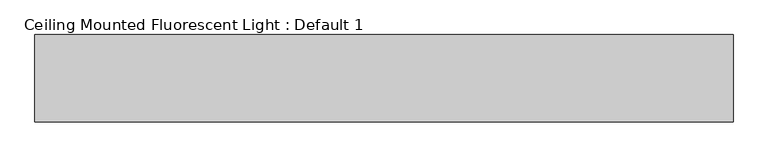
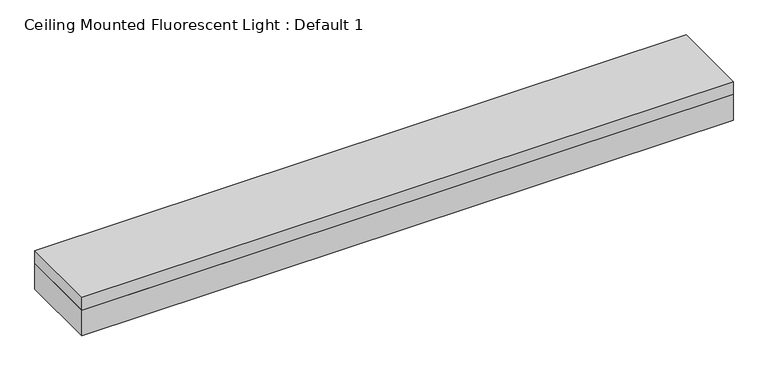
"""IFC4 building model written with IfcOpenShell, lengths in millimetres: light fixture geometry, Ceiling Mounted Fluorescent Light : Default 1."""

from ifc_helpers import new_model, si_unit, frame, origin, place, context, project, spatial, polyline, outline, extrude, source, transform, mapped, element, save


def ceiling_mounted_fluorescent_light_default_1_2233ce3a(model_context):
    return source(origin(), model_context, "Body", "SweptSolid", [
        extrude(outline(polyline([(609.6, 76.2), (609.6, -76.2), (-609.6, -76.2), (-609.6, 76.2), (609.6, 76.2)])), frame((0.0, 0.0, 2413.0), z_axis=(0.0, 0.0, 1.0), x_axis=(1.0, 0.0, 0.0)), (0.0, 0.0, 1.0), 25.4),
        extrude(outline(polyline([(-609.6, -76.2), (-609.6, 76.2), (609.6, 76.2), (609.6, 0.0), (609.6, -76.2), (-609.6, -76.2)]), holes=[polyline([(584.2, 50.8), (-584.2, 50.8), (-584.2, -50.8), (584.2, -50.8), (584.2, 0.0), (584.2, 50.8)])]), frame((0.0, 0.0, 2362.2), z_axis=(0.0, 0.0, 1.0), x_axis=(1.0, 0.0, 0.0)), (0.0, 0.0, 1.0), 50.8),
    ])


if __name__ == "__main__":
    model = new_model("IFC4")
    model_context = context("Model", 3, world=origin())
    ifc_project = project(units=[si_unit("LENGTHUNIT", "METRE", prefix="MILLI")], contexts=[model_context])
    site = spatial("IfcSite", under=ifc_project)
    building = spatial("IfcBuilding", under=site)
    placement = place(None, origin())
    ceiling_mounted_fluorescent_light_default_1_shape = ceiling_mounted_fluorescent_light_default_1_2233ce3a(model_context)
    element("IfcLightFixture", 1, ObjectType="Ceiling Mounted Fluorescent Light : Default 1", at=placement, inside=building, context=model_context, shape_type="MappedRepresentation", body=[
        mapped(ceiling_mounted_fluorescent_light_default_1_shape, transform((0.0, 0.0, 0.0), x_axis=(1.0, 0.0, 0.0), y_axis=(0.0, 1.0, 0.0), z_axis=(0.0, 0.0, 1.0))),
    ])
    save(model, "model.ifc")
